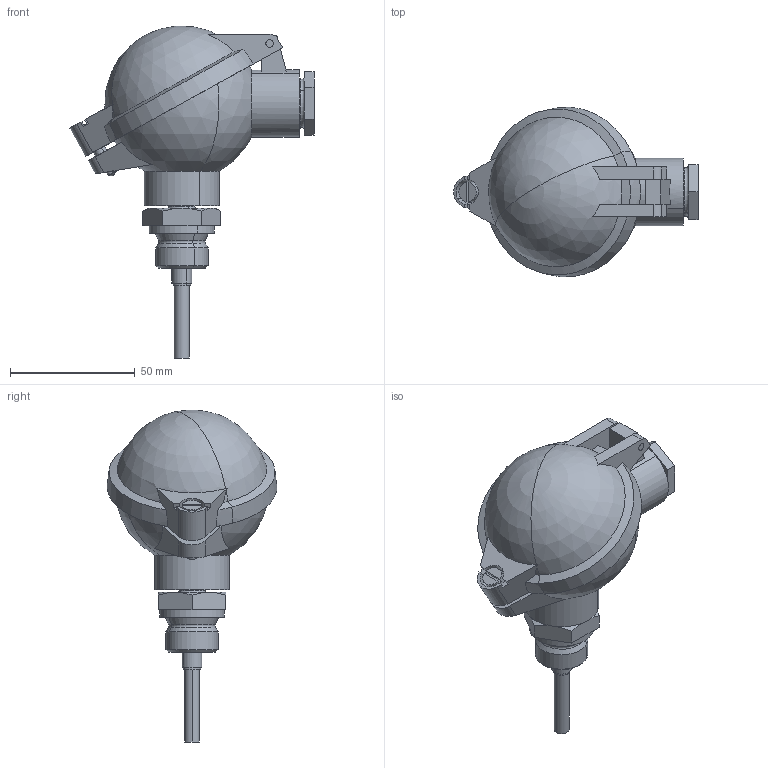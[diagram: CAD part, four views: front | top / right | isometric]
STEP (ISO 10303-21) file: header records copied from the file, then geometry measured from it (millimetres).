
FILE_DESCRIPTION(('CATIA V5 STEP Exchange'),'2;1');
FILE_NAME('Z:\RöderS_nichtloeschen\Belz\90203010-xxx-xxxx-x-6-50-104xxx Pos.227\90203010-xxx-xxxx-x-6-50-104xxx.stp','2017-10-19T05:46:07+00:00',('none'),('none'),'CATIA Version 5 Release 20 SP 7 (IN-10)','CATIA V5 STEP AP203','none');
FILE_SCHEMA(('CONFIG_CONTROL_DESIGN'));
Length unit declared in the file: millimetre
Products named in the file (2): 90203010-xxx-xxxx-x-6-50-104xxx; Anschlusskopf BUZ
Assembly tree (7 placements, depth 3):
  90203010-xxx-xxxx-x-6-50-104xxx
    #58
    #162
    Anschlusskopf BUZ
      #1481
      #3243
      #3817
      #4280
Bounding box: 97.89 x 67.85 x 132.97 mm (x, y, z)
Volume: 76435.8 mm3; surface area: 42377.5 mm2
Topology: 8 solids, 8 shells, 215 faces, 500 edges, 315 vertices
Faces by surface type: plane 81, cylinder 77, cone 31, sphere 14, torus 12
Entity records: 6087 total; most frequent: CARTESIAN_POINT 1471, ORIENTED_EDGE 988, DIRECTION 723, EDGE_CURVE 494, AXIS2_PLACEMENT_3D 372, VERTEX_POINT 315, EDGE_LOOP 257, CIRCLE 228
